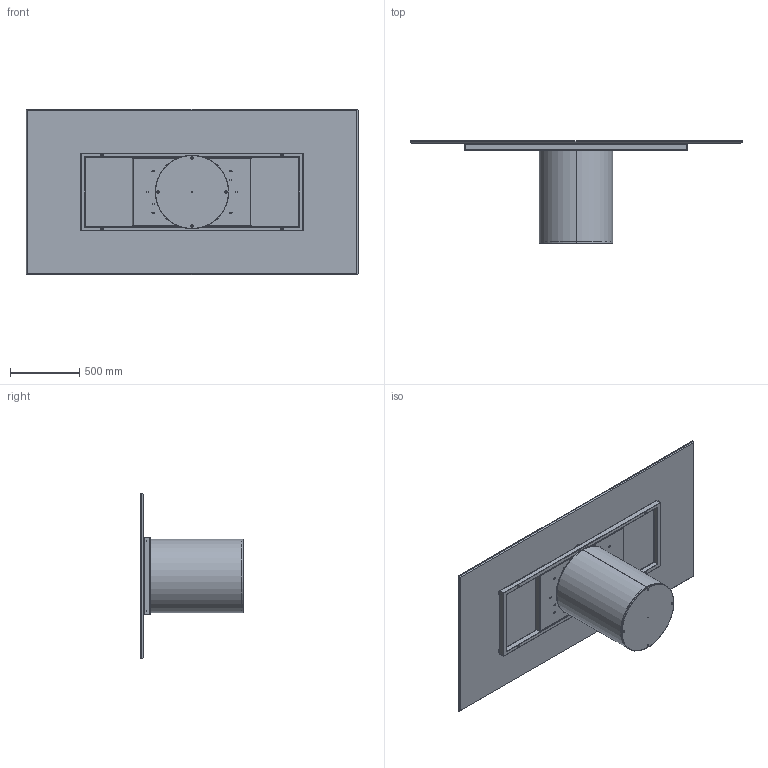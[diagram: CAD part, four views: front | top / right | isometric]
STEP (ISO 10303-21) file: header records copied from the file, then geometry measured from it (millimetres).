
FILE_DESCRIPTION (( 'STEP AP203' ), '1' );
FILE_NAME ('CI22C.STEP', '2024-08-08T07:23:08', ( '' ), ( '' ), 'SwSTEP 2.0', 'SolidWorks 2022', '' );
FILE_SCHEMA (( 'CONFIG_CONTROL_DESIGN' ));
Length unit declared in the file: millimetre
Products named in the file (11): M8xXXmm_hex_M8X20mm; C2B000000_01-00-struttura cilindro D.530mm; K2XCMXX-00-Piani Rettangolari in ceramica_2390 x 1190; CI22C; 434070-00-PIEDINO TPV GOMMA NERO D. 30x8max18_filo estetico; TTAV01_01-05-TELAIO UNIVERSALE X TAVOLI 180 240cm; COLLO TELAIO UNIVERSALE TTAV01 CON FERRAMENTA_MTG TOP CRISTALLO VERNICIATO-CERAMICA; C2B000000-03-CILINDRO BASE D.530mm_Normale; C2B000000_02-01-ZAVORRA IN FERRO D.530mm; TTAV01_02-05-VASSOIO IRRIGIDIMENTO TELAIO UNIVERSALE; TTAV01-05-TELAIO UNIVERSALE X TAVOLI 180 240cm
Assembly tree (18 placements, depth 4):
  CI22C
    C2B000000-03-CILINDRO BASE D.530mm_Normale
      C2B000000_01-00-struttura cilindro D.530mm
      C2B000000_02-01-ZAVORRA IN FERRO D.530mm
      M8xXXmm_hex_M8X20mm  x4
    COLLO TELAIO UNIVERSALE TTAV01 CON FERRAMENTA_MTG TOP CRISTALLO VERNICIATO-CERAMICA
      TTAV01-05-TELAIO UNIVERSALE X TAVOLI 180 240cm
        TTAV01_02-05-VASSOIO IRRIGIDIMENTO TELAIO UNIVERSALE
        TTAV01_01-05-TELAIO UNIVERSALE X TAVOLI 180 240cm
      434070-00-PIEDINO TPV GOMMA NERO D. 30x8max18_filo estetico  x6
    K2XCMXX-00-Piani Rettangolari in ceramica_2390 x 1190
Bounding box: 2390 x 736 x 1190 mm (x, y, z)
Volume: 53968998.5 mm3; surface area: 16569824.2 mm2
Topology: 25 solids, 25 shells, 582 faces, 1360 edges, 814 vertices
Faces by surface type: plane 266, cylinder 230, cone 32, torus 32, sphere 22
Entity records: 14039 total; most frequent: DIRECTION 2312, CARTESIAN_POINT 2175, ORIENTED_EDGE 2076, EDGE_CURVE 1038, AXIS2_PLACEMENT_3D 846, VERTEX_POINT 645, LINE 620, VECTOR 620
